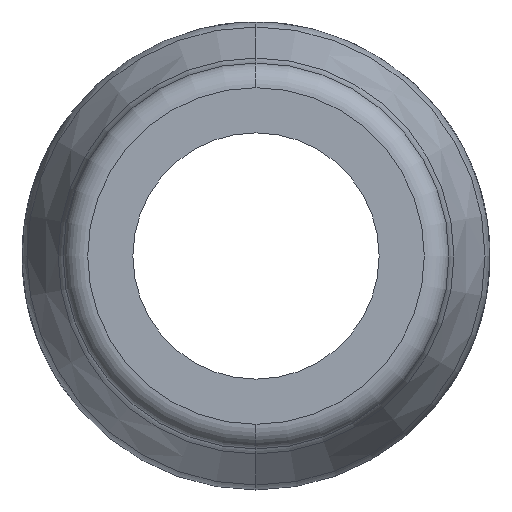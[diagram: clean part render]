
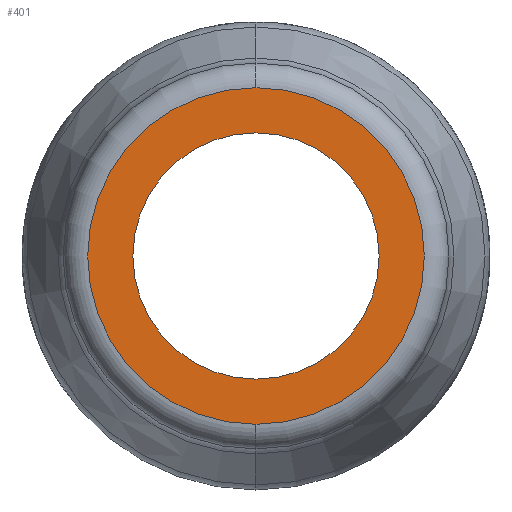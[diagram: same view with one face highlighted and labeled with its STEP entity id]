
A CAD part, left-side view. The second image highlights one B-rep face of the part: STEP entity #401.
In plain terms, the highlighted planar face has unit normal (-1, 0, 0).
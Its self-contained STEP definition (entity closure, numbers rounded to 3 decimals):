
#68 = EDGE_CURVE ( 'NONE', #1235, #1727, #1815, .T. ) ;
#93 = DIRECTION ( 'NONE',  ( -1., 0., 0. ) ) ;
#104 = DIRECTION ( 'NONE',  ( 0., 0., 1. ) ) ;
#110 = EDGE_LOOP ( 'NONE', ( #1691, #435 ) ) ;
#127 = CIRCLE ( 'NONE', #1650, 20.5 ) ;
#155 = CARTESIAN_POINT ( 'NONE',  ( 0., 0., 0. ) ) ;
#208 = DIRECTION ( 'NONE',  ( 1., 0., 0. ) ) ;
#247 = DIRECTION ( 'NONE',  ( 0., 0., 1. ) ) ;
#252 = ORIENTED_EDGE ( 'NONE', *, *, #68, .F. ) ;
#282 = ORIENTED_EDGE ( 'NONE', *, *, #608, .F. ) ;
#311 = EDGE_CURVE ( 'NONE', #1104, #1826, #127, .T. ) ;
#345 = CARTESIAN_POINT ( 'NONE',  ( 0., 0., 0. ) ) ;
#379 = CARTESIAN_POINT ( 'NONE',  ( 0., 0., 20.5 ) ) ;
#401 = ADVANCED_FACE ( 'NONE', ( #1522, #777 ), #1444, .F. ) ;
#435 = ORIENTED_EDGE ( 'NONE', *, *, #311, .T. ) ;
#474 = CARTESIAN_POINT ( 'NONE',  ( 0., 15., 0. ) ) ;
#567 = AXIS2_PLACEMENT_3D ( 'NONE', #474, #208, #739 ) ;
#608 = EDGE_CURVE ( 'NONE', #1727, #1235, #1247, .T. ) ;
#654 = AXIS2_PLACEMENT_3D ( 'NONE', #1822, #912, #891 ) ;
#739 = DIRECTION ( 'NONE',  ( 0., 0., -1. ) ) ;
#776 = CIRCLE ( 'NONE', #654, 20.5 ) ;
#777 = FACE_BOUND ( 'NONE', #1084, .T. ) ;
#848 = CARTESIAN_POINT ( 'NONE',  ( 0., 0., -15. ) ) ;
#891 = DIRECTION ( 'NONE',  ( 0., 0., -1. ) ) ;
#912 = DIRECTION ( 'NONE',  ( -1., 0., 0. ) ) ;
#941 = DIRECTION ( 'NONE',  ( 0., 0., -1. ) ) ;
#1084 = EDGE_LOOP ( 'NONE', ( #282, #252 ) ) ;
#1104 = VERTEX_POINT ( 'NONE', #379 ) ;
#1131 = AXIS2_PLACEMENT_3D ( 'NONE', #345, #1625, #104 ) ;
#1235 = VERTEX_POINT ( 'NONE', #848 ) ;
#1247 = CIRCLE ( 'NONE', #1131, 15. ) ;
#1444 = PLANE ( 'NONE',  #567 ) ;
#1522 = FACE_OUTER_BOUND ( 'NONE', #110, .T. ) ;
#1533 = CARTESIAN_POINT ( 'NONE',  ( 0., 0., -20.5 ) ) ;
#1625 = DIRECTION ( 'NONE',  ( -1., 0., 0. ) ) ;
#1650 = AXIS2_PLACEMENT_3D ( 'NONE', #1672, #1765, #941 ) ;
#1660 = EDGE_CURVE ( 'NONE', #1826, #1104, #776, .T. ) ;
#1672 = CARTESIAN_POINT ( 'NONE',  ( 0., 0., 0. ) ) ;
#1691 = ORIENTED_EDGE ( 'NONE', *, *, #1660, .T. ) ;
#1714 = AXIS2_PLACEMENT_3D ( 'NONE', #155, #93, #247 ) ;
#1727 = VERTEX_POINT ( 'NONE', #1798 ) ;
#1765 = DIRECTION ( 'NONE',  ( -1., 0., 0. ) ) ;
#1798 = CARTESIAN_POINT ( 'NONE',  ( 0., 0., 15. ) ) ;
#1815 = CIRCLE ( 'NONE', #1714, 15. ) ;
#1822 = CARTESIAN_POINT ( 'NONE',  ( 0., 0., 0. ) ) ;
#1826 = VERTEX_POINT ( 'NONE', #1533 ) ;
